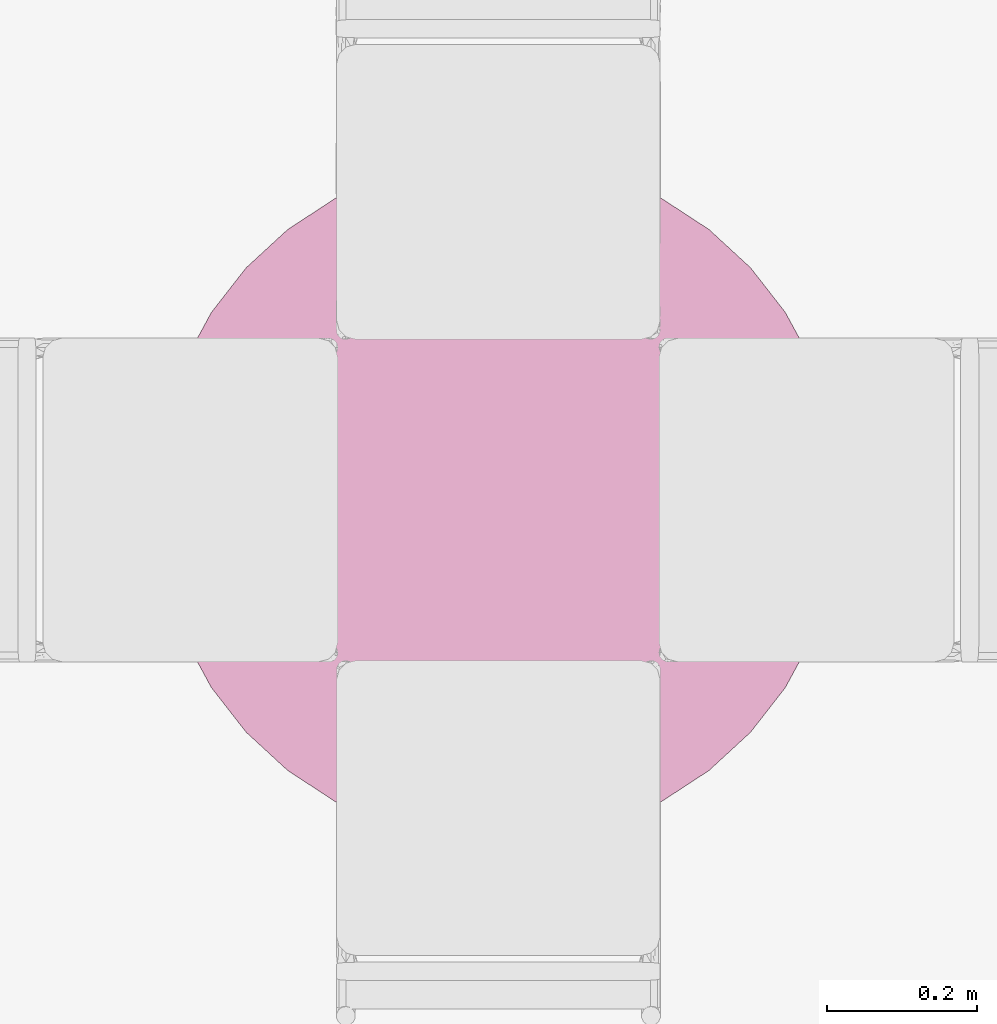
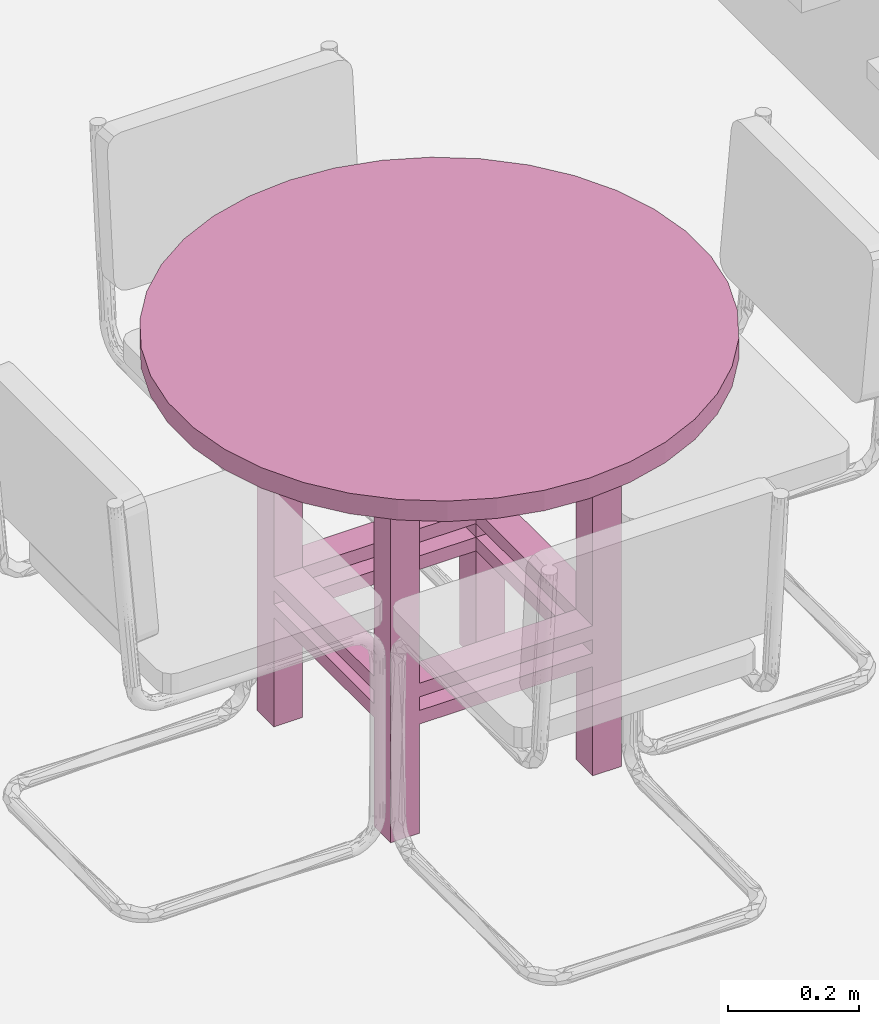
# One storey, part 7 of 11: 1 furnishing.
"""IFC2X3 building model written with IfcOpenShell, lengths in metres."""

from ifc_helpers import new_model, entity, si_unit, converted_unit, derived_unit, direction, frame, origin, place, context, subcontext, project, spatial, faceted_brep, source, transform, mapped, material, material_list, type_object, type_shapes, element, save


model = new_model("IFC2X3")

# Units and contexts
model_context = context("Model", 3, precision=1e-05, world=origin(), true_north=direction((6.12303176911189e-17, 1.0)))
body_context = subcontext(model_context, "Body", "Model", "MODEL_VIEW")
ifc_project = project(units=[si_unit("LENGTHUNIT", "METRE"), si_unit("AREAUNIT", "SQUARE_METRE"), si_unit("VOLUMEUNIT", "CUBIC_METRE"), converted_unit("PLANEANGLEUNIT", "DEGREE", entity("IfcRatioMeasure", 0.0174532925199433), si_unit("PLANEANGLEUNIT", "RADIAN"), dimensions=[0, 0, 0, 0, 0, 0, 0]), si_unit("MASSUNIT", "GRAM", prefix="KILO"), derived_unit("MASSDENSITYUNIT", [(si_unit("MASSUNIT", "GRAM", prefix="KILO"), 1), (si_unit("LENGTHUNIT", "METRE"), -3)]), derived_unit("MOMENTOFINERTIAUNIT", [(si_unit("LENGTHUNIT", "METRE"), 4)]), si_unit("TIMEUNIT", "SECOND"), si_unit("FREQUENCYUNIT", "HERTZ"), si_unit("THERMODYNAMICTEMPERATUREUNIT", "DEGREE_CELSIUS"), derived_unit("THERMALTRANSMITTANCEUNIT", [(si_unit("MASSUNIT", "GRAM", prefix="KILO"), 1), (si_unit("THERMODYNAMICTEMPERATUREUNIT", "KELVIN"), -1), (si_unit("TIMEUNIT", "SECOND"), -3)]), derived_unit("VOLUMETRICFLOWRATEUNIT", [(si_unit("LENGTHUNIT", "METRE"), 3), (si_unit("TIMEUNIT", "SECOND"), -1)]), si_unit("ELECTRICCURRENTUNIT", "AMPERE"), si_unit("ELECTRICVOLTAGEUNIT", "VOLT"), si_unit("POWERUNIT", "WATT"), si_unit("FORCEUNIT", "NEWTON", prefix="KILO"), si_unit("ILLUMINANCEUNIT", "LUX"), si_unit("LUMINOUSFLUXUNIT", "LUMEN"), si_unit("LUMINOUSINTENSITYUNIT", "CANDELA"), derived_unit("USERDEFINED", [(si_unit("MASSUNIT", "GRAM", prefix="KILO"), -1), (si_unit("LENGTHUNIT", "METRE"), -2), (si_unit("TIMEUNIT", "SECOND"), 3), (si_unit("LUMINOUSFLUXUNIT", "LUMEN"), 1)]), derived_unit("LINEARVELOCITYUNIT", [(si_unit("LENGTHUNIT", "METRE"), 1), (si_unit("TIMEUNIT", "SECOND"), -1)]), si_unit("PRESSUREUNIT", "PASCAL"), derived_unit("USERDEFINED", [(si_unit("LENGTHUNIT", "METRE"), -2), (si_unit("MASSUNIT", "GRAM", prefix="KILO"), 1), (si_unit("TIMEUNIT", "SECOND"), -2)]), derived_unit("LINEARFORCEUNIT", [(si_unit("MASSUNIT", "GRAM", prefix="KILO"), 1), (si_unit("LENGTHUNIT", "METRE"), 1), (si_unit("TIMEUNIT", "SECOND"), -2), (si_unit("LENGTHUNIT", "METRE"), -1)]), derived_unit("PLANARFORCEUNIT", [(si_unit("MASSUNIT", "GRAM", prefix="KILO"), 1), (si_unit("LENGTHUNIT", "METRE"), 1), (si_unit("TIMEUNIT", "SECOND"), -2), (si_unit("LENGTHUNIT", "METRE"), -2)])], contexts=[model_context])

# Site, building, storey
site_placement = place(None, origin())
site = spatial("IfcSite", under=ifc_project, at=site_placement, Name="Default", CompositionType="ELEMENT")
building_placement = place(site_placement, origin())
building = spatial("IfcBuilding", under=site, at=building_placement, CompositionType="ELEMENT")
storey_placement = place(building_placement, origin())
storey = spatial("IfcBuildingStorey", under=building, at=storey_placement, Name="Nivel 1", CompositionType="ELEMENT", Elevation=0.0)

# Furnishing
ifc_material_1 = material(Name="Pine")
ifc_material_2 = material(Name="Laminate, Linen, Matte")
ifc_material_list_1 = material_list([ifc_material_1, ifc_material_2])
ifc_material_list_2 = material_list([ifc_material_2, ifc_material_1])
furniture_type = type_object("IfcFurnitureType", Name="M_Table-Dining Round w Chairs:0915mm Diameter", material=ifc_material_list_2)
shared_shape = source(origin(), body_context, "Body", "Brep", [
    faceted_brep([(0.256231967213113, 0.0184713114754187, 0.6477), (0.256231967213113, -0.0323286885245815, 0.6477), (0.307031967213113, -0.0323286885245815, 0.6477), (0.307031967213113, 0.0184713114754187, 0.6477), (-0.0488680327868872, 0.0184713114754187, 0.0), (-0.0488680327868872, -0.0323286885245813, 0.0), (-0.0996680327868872, -0.0323286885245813, 0.0), (-0.0996680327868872, 0.0184713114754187, 0.0), (-0.0996680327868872, 0.0184713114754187, 0.6477), (-0.0488680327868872, 0.0184713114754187, 0.6477), (-0.0488680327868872, 0.0184713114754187, 0.2794), (0.256231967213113, 0.0184713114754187, 0.2794), (0.307031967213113, 0.0184713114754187, 0.0), (0.256231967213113, 0.0184713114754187, 0.0), (0.256231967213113, 0.0184713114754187, 0.2032), (-0.0488680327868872, 0.0184713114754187, 0.2032), (0.256231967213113, 0.0184713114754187, 0.2286), (0.256231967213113, 0.0184713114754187, 0.254), (-0.0488680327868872, 0.0184713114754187, 0.254), (-0.0488680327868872, 0.0184713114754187, 0.2286), (-0.0996680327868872, -0.0323286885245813, 0.6477), (-0.0996680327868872, -0.0323286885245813, 0.2032), (-0.0996680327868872, -0.337428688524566, 0.2032), (-0.0996680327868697, -0.337428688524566, 0.0), (-0.0996680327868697, -0.388228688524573, 0.0), (-0.0996680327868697, -0.388228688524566, 0.6477), (-0.0996680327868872, -0.337428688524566, 0.6477), (-0.0996680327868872, -0.337428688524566, 0.2794), (-0.0996680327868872, -0.0323286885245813, 0.2794), (-0.0996680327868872, -0.0323286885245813, 0.2286), (-0.0996680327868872, -0.0323286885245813, 0.254), (-0.0996680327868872, -0.337428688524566, 0.254), (-0.0996680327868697, -0.337428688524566, 0.2286), (-0.0488680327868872, -0.0323286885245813, 0.6477), (-0.0488680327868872, -0.0323286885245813, 0.2794), (0.256231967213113, -0.0323286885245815, 0.2794), (0.307031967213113, -0.0323286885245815, 0.2794), (0.307031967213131, -0.337428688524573, 0.2794), (0.307031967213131, -0.337428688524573, 0.6477), (0.307031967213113, -0.388228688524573, 0.6477), (0.307031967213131, -0.388228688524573, 0.0), (0.307031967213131, -0.337428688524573, 0.0), (0.307031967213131, -0.337428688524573, 0.2032), (0.307031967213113, -0.0323286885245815, 0.2032), (0.307031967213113, -0.0323286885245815, 0.0), (0.307031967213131, -0.337428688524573, 0.2286), (0.307031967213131, -0.337428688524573, 0.254), (0.307031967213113, -0.0323286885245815, 0.254), (0.307031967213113, -0.0323286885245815, 0.2286), (0.256231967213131, -0.388228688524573, 0.6477), (0.256231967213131, -0.388228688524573, 0.2794), (-0.0488680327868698, -0.388228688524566, 0.2794), (-0.0488680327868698, -0.388228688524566, 0.6477), (-0.0488680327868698, -0.388228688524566, 0.0), (-0.0488680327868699, -0.388228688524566, 0.2032), (0.256231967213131, -0.388228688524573, 0.2032), (0.256231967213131, -0.388228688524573, 0.0), (-0.0488680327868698, -0.388228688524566, 0.2286), (-0.0488680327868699, -0.388228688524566, 0.254), (0.256231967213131, -0.388228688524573, 0.254), (0.256231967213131, -0.388228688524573, 0.2286), (0.256231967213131, -0.337428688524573, 0.6477), (0.256231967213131, -0.337428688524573, 0.2794), (-0.0488680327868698, -0.337428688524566, 0.6477), (-0.0488680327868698, -0.337428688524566, 0.2794), (0.256231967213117, -0.0323286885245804, 0.2286), (0.256231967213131, -0.337428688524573, 0.2286), (-0.0488680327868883, -0.0323286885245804, 0.2032), (-0.0488680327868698, -0.337428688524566, 0.2032), (0.256231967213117, -0.0323286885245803, 0.2032), (0.256231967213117, -0.337428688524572, 0.2032), (-0.0488680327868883, -0.337428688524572, 0.2286), (-0.0488680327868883, -0.0323286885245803, 0.2286), (-0.0488680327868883, -0.0323286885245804, 0.254), (-0.0488680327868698, -0.337428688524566, 0.254), (0.256231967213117, -0.0323286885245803, 0.254), (0.256231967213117, -0.337428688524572, 0.254), (-0.0488680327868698, -0.337428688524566, 0.0), (0.256231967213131, -0.337428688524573, 0.0), (0.256231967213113, -0.0323286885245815, 0.0)], [[[0, 1, 2, 3]], [[4, 5, 6, 7]], [[8, 9, 10, 11, 0, 3, 12, 13, 14, 15, 4, 7], [16, 17, 18, 19]], [[20, 8, 7, 6, 21, 22, 23, 24, 25, 26, 27, 28], [29, 30, 31, 32]], [[33, 20, 28, 34]], [[9, 33, 34, 10]], [[1, 0, 11, 35]], [[2, 1, 35, 36]], [[12, 3, 2, 36, 37, 38, 39, 40, 41, 42, 43, 44], [45, 46, 47, 48]], [[40, 39, 49, 50, 51, 52, 25, 24, 53, 54, 55, 56], [57, 58, 59, 60]], [[61, 38, 37, 62]], [[49, 61, 62, 50]], [[63, 52, 51, 64]], [[26, 63, 64, 27]], [[65, 66, 45, 48]], [[67, 68, 22, 21]], [[66, 65, 69, 70]], [[71, 66, 70, 68]], [[72, 71, 68, 67]], [[65, 72, 67, 69]], [[35, 62, 37, 36]], [[73, 74, 31, 30]], [[62, 35, 75, 76]], [[64, 62, 76, 74]], [[34, 64, 74, 73]], [[35, 34, 73, 75]], [[74, 76, 59, 58]], [[75, 73, 18, 17]], [[76, 75, 47, 46]], [[62, 64, 51, 50]], [[64, 34, 28, 27]], [[34, 35, 11, 10]], [[68, 70, 55, 54]], [[69, 67, 15, 14]], [[70, 69, 43, 42]], [[66, 71, 57, 60]], [[71, 72, 29, 32]], [[72, 65, 16, 19]], [[71, 32, 31, 74]], [[77, 23, 22, 68]], [[57, 71, 74, 58]], [[53, 77, 68, 54]], [[66, 60, 59, 76]], [[78, 56, 55, 70]], [[45, 66, 76, 46]], [[41, 78, 70, 42]], [[65, 48, 47, 75]], [[79, 44, 43, 69]], [[16, 65, 75, 17]], [[13, 79, 69, 14]], [[72, 19, 18, 73]], [[5, 4, 15, 67]], [[29, 72, 73, 30]], [[6, 5, 67, 21]], [[53, 24, 23, 77]], [[13, 12, 44, 79]], [[56, 78, 41, 40]], [[49, 39, 38, 61]], [[52, 63, 26, 25]], [[9, 8, 20, 33]]]),
    faceted_brep([(0.332431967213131, 0.0438713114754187, 0.7239), (-0.125068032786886, 0.0438713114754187, 0.7239), (-0.125068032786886, -0.413628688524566, 0.7239), (0.332431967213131, -0.413628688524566, 0.7239), (0.307031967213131, 0.0184713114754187, 0.7239), (0.307031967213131, -0.388228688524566, 0.7239), (-0.0996680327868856, -0.388228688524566, 0.7239), (-0.0996680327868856, 0.0184713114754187, 0.7239), (0.332431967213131, 0.0438713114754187, 0.6477), (0.332431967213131, -0.413628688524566, 0.6477), (-0.125068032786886, -0.413628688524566, 0.6477), (-0.125068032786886, 0.0438713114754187, 0.6477), (0.307031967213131, 0.0184713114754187, 0.6477), (-0.0996680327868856, 0.0184713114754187, 0.6477), (-0.0996680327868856, -0.388228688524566, 0.6477), (0.307031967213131, -0.388228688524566, 0.6477)], [[[0, 1, 2, 3], [4, 5, 6, 7]], [[8, 9, 10, 11], [12, 13, 14, 15]], [[1, 0, 8, 11]], [[2, 1, 11, 10]], [[3, 2, 10, 9]], [[0, 3, 9, 8]], [[5, 4, 12, 15]], [[6, 5, 15, 14]], [[7, 6, 14, 13]], [[4, 7, 13, 12]]]),
    faceted_brep([(-0.27932169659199, -0.435107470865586, 0.723900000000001), (-0.315284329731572, -0.36865434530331, 0.723900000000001), (-0.339818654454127, -0.297188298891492, 0.723900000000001), (-0.352255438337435, -0.222658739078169, 0.723900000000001), (-0.352255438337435, -0.147098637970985, 0.723900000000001), (-0.339818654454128, -0.0725690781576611, 0.723900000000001), (-0.315284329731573, -0.00110303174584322, 0.723900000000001), (-0.279321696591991, 0.0653500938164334, 0.723900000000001), (-0.232911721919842, 0.1249776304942, 0.7239), (-0.177320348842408, 0.176153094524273, 0.7239), (-0.114063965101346, 0.217480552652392, 0.7239), (-0.0448680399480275, 0.247832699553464, 0.7239), (0.0283799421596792, 0.266381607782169, 0.7239), (0.103681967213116, 0.272621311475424, 0.723899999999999), (0.178983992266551, 0.266381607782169, 0.723899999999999), (0.252231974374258, 0.247832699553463, 0.723899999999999), (0.321427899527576, 0.217480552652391, 0.723899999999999), (0.384684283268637, 0.176153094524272, 0.723899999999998), (0.440275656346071, 0.124977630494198, 0.723899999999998), (0.48668563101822, 0.0653500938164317, 0.723899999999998), (0.522648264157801, -0.00110303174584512, 0.723899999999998), (0.547182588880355, -0.072569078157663, 0.723899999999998), (0.559619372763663, -0.147098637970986, 0.723899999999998), (0.559619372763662, -0.22265873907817, 0.723899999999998), (0.547182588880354, -0.297188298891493, 0.723899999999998), (0.522648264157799, -0.368654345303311, 0.723899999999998), (0.486685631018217, -0.435107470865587, 0.723899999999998), (0.440275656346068, -0.494735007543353, 0.723899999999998), (0.384684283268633, -0.545910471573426, 0.723899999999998), (0.321427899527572, -0.587237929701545, 0.723899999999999), (0.252231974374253, -0.617590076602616, 0.723899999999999), (0.178983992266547, -0.636138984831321, 0.723899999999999), (0.103681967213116, -0.642378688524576, 0.723899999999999), (0.0283799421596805, -0.636138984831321, 0.7239), (-0.0448680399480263, -0.617590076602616, 0.7239), (-0.114063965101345, -0.587237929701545, 0.7239), (-0.177320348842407, -0.545910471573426, 0.7239), (-0.232911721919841, -0.494735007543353, 0.7239), (-0.315284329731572, -0.36865434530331, 0.762000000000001), (-0.27932169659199, -0.435107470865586, 0.762000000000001), (-0.232911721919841, -0.494735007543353, 0.762), (-0.177320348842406, -0.545910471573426, 0.762), (-0.114063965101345, -0.587237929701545, 0.762), (-0.0448680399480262, -0.617590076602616, 0.762), (0.0283799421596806, -0.636138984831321, 0.762), (0.103681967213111, -0.642378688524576, 0.761999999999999), (0.178983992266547, -0.636138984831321, 0.761999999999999), (0.252231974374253, -0.617590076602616, 0.761999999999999), (0.321427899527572, -0.587237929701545, 0.761999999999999), (0.384684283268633, -0.545910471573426, 0.761999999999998), (0.440275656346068, -0.494735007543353, 0.761999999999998), (0.486685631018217, -0.435107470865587, 0.761999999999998), (0.522648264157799, -0.368654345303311, 0.761999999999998), (0.547182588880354, -0.297188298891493, 0.761999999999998), (0.559619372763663, -0.22265873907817, 0.761999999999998), (0.559619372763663, -0.147098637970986, 0.761999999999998), (0.547182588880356, -0.072569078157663, 0.761999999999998), (0.522648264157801, -0.00110303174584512, 0.761999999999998), (0.48668563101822, 0.0653500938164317, 0.761999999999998), (0.440275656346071, 0.124977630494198, 0.761999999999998), (0.384684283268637, 0.176153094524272, 0.761999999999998), (0.321427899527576, 0.217480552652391, 0.761999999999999), (0.252231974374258, 0.247832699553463, 0.761999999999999), (0.178983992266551, 0.266381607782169, 0.761999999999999), (0.103681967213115, 0.272621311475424, 0.761999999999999), (0.0283799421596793, 0.266381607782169, 0.762), (-0.0448680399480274, 0.247832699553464, 0.762), (-0.114063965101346, 0.217480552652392, 0.762), (-0.177320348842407, 0.176153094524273, 0.762), (-0.232911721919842, 0.1249776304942, 0.762), (-0.279321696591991, 0.0653500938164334, 0.762000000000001), (-0.315284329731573, -0.00110303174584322, 0.762000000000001), (-0.339818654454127, -0.0725690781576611, 0.762000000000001), (-0.352255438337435, -0.147098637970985, 0.762000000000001), (-0.352255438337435, -0.222658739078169, 0.762000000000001), (-0.339818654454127, -0.297188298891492, 0.762000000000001)], [[[0, 1, 2, 3, 4, 5, 6, 7, 8, 9, 10, 11, 12, 13, 14, 15, 16, 17, 18, 19, 20, 21, 22, 23, 24, 25, 26, 27, 28, 29, 30, 31, 32, 33, 34, 35, 36, 37]], [[38, 39, 40, 41, 42, 43, 44, 45, 46, 47, 48, 49, 50, 51, 52, 53, 54, 55, 56, 57, 58, 59, 60, 61, 62, 63, 64, 65, 66, 67, 68, 69, 70, 71, 72, 73, 74, 75]], [[44, 33, 32, 45]], [[42, 35, 34, 43]], [[34, 33, 44, 43]], [[36, 35, 42, 41]], [[0, 37, 40, 39]], [[75, 74, 3, 2]], [[39, 38, 1, 0]], [[41, 40, 37, 36]], [[1, 38, 75, 2]], [[74, 73, 4, 3]], [[6, 71, 70, 7]], [[4, 73, 72, 5]], [[71, 6, 5, 72]], [[7, 70, 69, 8]], [[66, 65, 12, 11]], [[9, 68, 67, 10]], [[10, 67, 66, 11]], [[69, 68, 9, 8]], [[12, 65, 64, 13]], [[14, 13, 64, 63]], [[16, 15, 62, 61]], [[63, 62, 15, 14]], [[61, 60, 17, 16]], [[57, 56, 21, 20]], [[18, 59, 58, 19]], [[19, 58, 57, 20]], [[59, 18, 17, 60]], [[21, 56, 55, 22]], [[55, 54, 23, 22]], [[25, 52, 51, 26]], [[23, 54, 53, 24]], [[52, 25, 24, 53]], [[26, 51, 50, 27]], [[47, 46, 31, 30]], [[28, 49, 48, 29]], [[29, 48, 47, 30]], [[50, 49, 28, 27]], [[31, 46, 45, 32]]]),
])
type_shapes(furniture_type, [shared_shape])
furnishing_placement = place(storey_placement, frame((1.87063886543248, -3.84989576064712, 0.0), z_axis=(0.0, 0.0, 1.0), x_axis=(-1.0, 0.0, 0.0)))
element("IfcFurnishingElement", 1, at=furnishing_placement, inside=storey, type_object=furniture_type, material=ifc_material_list_1, Name="M_Table-Dining Round w Chairs:0915mm Diameter", ObjectType="M_Table-Dining Round w Chairs:0915mm Diameter", context=body_context, shape_type="MappedRepresentation", body=[
    mapped(shared_shape, transform((0.0, 0.0, 0.0), scale=1.0)),
])

save(model, "model.ifc")
